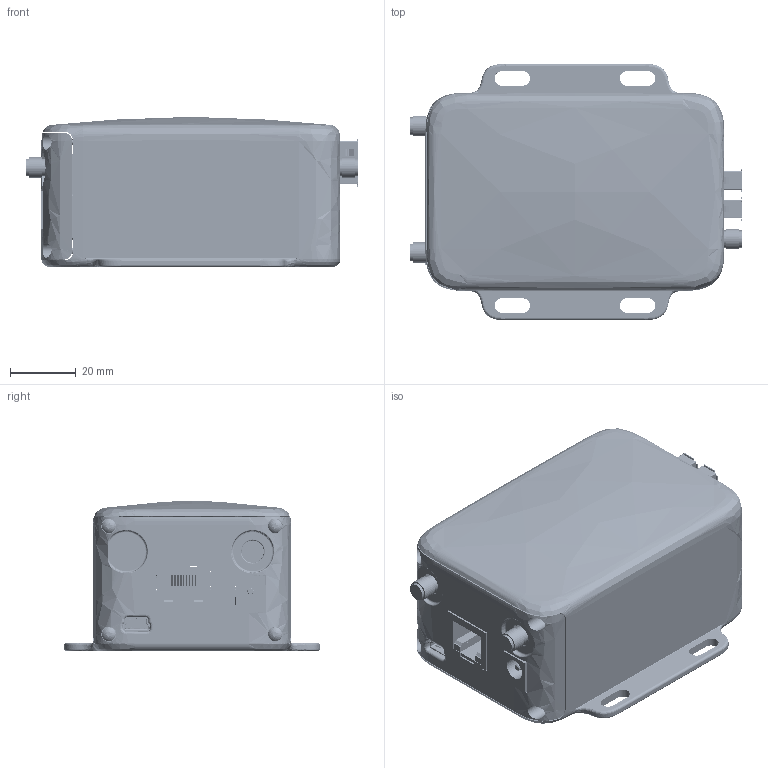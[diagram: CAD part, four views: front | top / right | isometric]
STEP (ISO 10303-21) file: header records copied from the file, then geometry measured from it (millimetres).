
FILE_DESCRIPTION (( 'STEP AP214' ), '1' );
FILE_NAME ('Skywire BeagleBone Black Cape.STEP', '2017-04-08T04:07:20', ( '' ), ( '' ), 'SwSTEP 2.0', 'SolidWorks 2017', '' );
FILE_SCHEMA (( 'AUTOMOTIVE_DESIGN' ));
Length unit declared in the file: inch
Products named in the file (349): SW1; 2x23_socket_45; Extruded_17; 2x23_socket_28; C6; R41; 1032206568; R14; R7; R56; 1007370992; R43; 1032204288; 2x23_socket_16; SKYWIRENEWGREEN_6; C13; m22-7131042_asm; D10; C40; 2x23_socket_22; R22; Extruded_8; L5; R1; 2x23_socket_4; C19; 1158342000; Extruded_22; D9; Extruded_29; R61; 2x23_socket_25; Extruded_7; NL-AB-BBBC_3D-PCB-MODEL-WSkywire_Telit; Cylinder_5; 2x23_socket_44; M22-713_CONTACT; Extruded_12; 1007374576; Extruded_5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
Assembly tree (734 placements, depth 5):
  Skywire BeagleBone Black Cape
    NL-AB-BBBC_3D-PCB-MODEL-WSkywire_Telit
      R63
        RES0603
      Q1
        DBZ0003A
          BODY_MF03A
          LEAD_MF03A  x3
      ANT3
        1158342000
          Extruded
        1032203928
          Cylinder
        1158336880  x4
          Extruded_2
        1158337392  x4
          Extruded_3
        1032204288
          Cylinder_2
        1032203808
          Cylinder_3
        1032203688
          Cylinder_4
      C53
        RES0603
      U8
        FAN8303_BODYpin  x8
          Extruded_4
        1007374192
          Extruded_5
        1032192048
          Cylinder_5
      U11
        0673298020  x8
          Extruded_6
        1007374320
          Extruded_7
      U10
        BBBC2  x16
          Extruded_8
        1007371632
          Extruded_9
      R47
        RES0603
      R46
        RES0603
      R45
        RES0603
      R44
        RES0603
      R43
        RES0603
      R42
        RES0603
      R41
        RES0603
      R39
        RES0603
      R30
        RES0603
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Bounding box: 100.99 x 77.98 x 45.72 mm (x, y, z)
Volume: 61407 mm3; surface area: 104688.2 mm2
Topology: 816 solids, 5336 shells, 24591 faces, 73449 edges, 55404 vertices
Faces by surface type: plane 19192, cylinder 3964, bspline 1244, cone 158, torus 29, sphere 4
Full cylindrical faces by diameter (mm): 0.381 x45, 0.406 x24, 0.5 x3, 0.508 x8, 0.6 x2, 0.762 x8, 0.8 x2, 0.92 x4, 1.016 x22, 1.02 x92, 1.5 x3, 1.6 x2, 1.7 x3, 1.86 x3, 1.9 x1, 1.905 x4, 2 x7, 2.413 x3, 2.667 x4, 3.175 x6, 3.251 x2, 3.6 x1, 3.683 x3, 4.242 x4, 4.623 x4, 5.283 x3, 6.18 x1, 6.248 x3, 6.5 x1, 6.756 x2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
Entity records: 565524 total; most frequent: CARTESIAN_POINT 137407, ORIENTED_EDGE 71881, DIRECTION 70061, EDGE_CURVE 41986, LINE 35617, VECTOR 35617, VERTEX_POINT 31784, AXIS2_PLACEMENT_3D 17222
